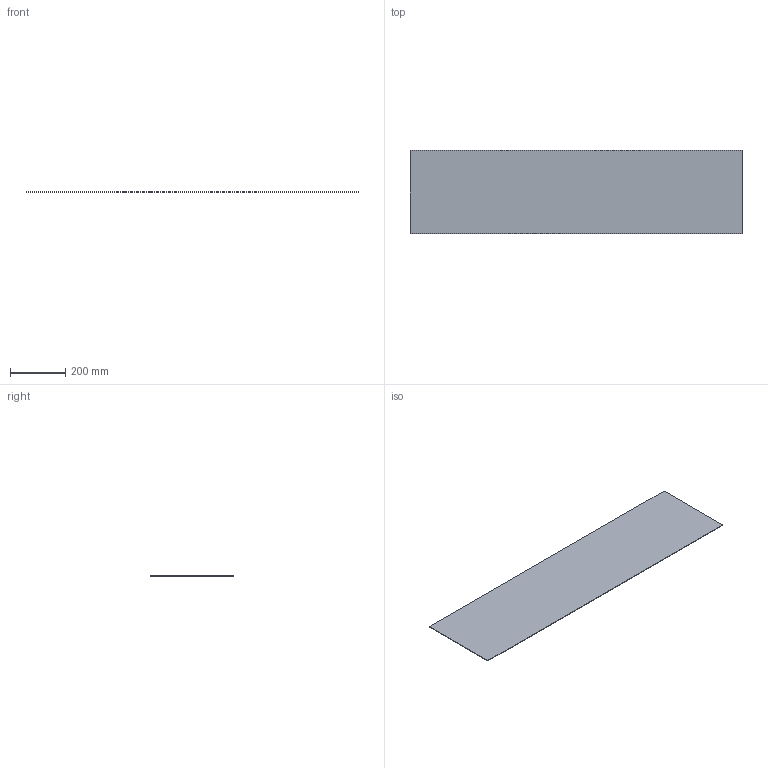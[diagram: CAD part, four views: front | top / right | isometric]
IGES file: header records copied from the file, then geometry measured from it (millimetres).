
Start section: SolidWorks IGES file using analytic representation for surfaces
Global section: file name: \\UTENTI\Dati Utenti\Tecnico\DC\2D - 3D per sito\3D superfici\DeCastelli-3D-Forma 30x120.igs; native system: SolidWorks 2022; preprocessor: SolidWorks 2022; author: Silviad; date: 240808.092943; units: millimetre
Bounding box: 1200 x 300 x 2 mm (x, y, z)
Surface area: 726000 mm2 (no closed solid volume)
Topology: 0 solids, 0 shells, 6 faces, 24 edges, 24 vertices
Faces by surface type: bspline 6
